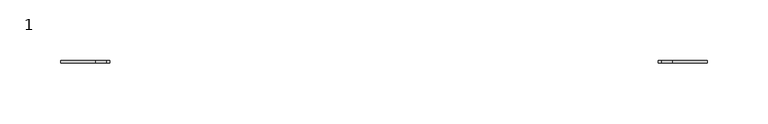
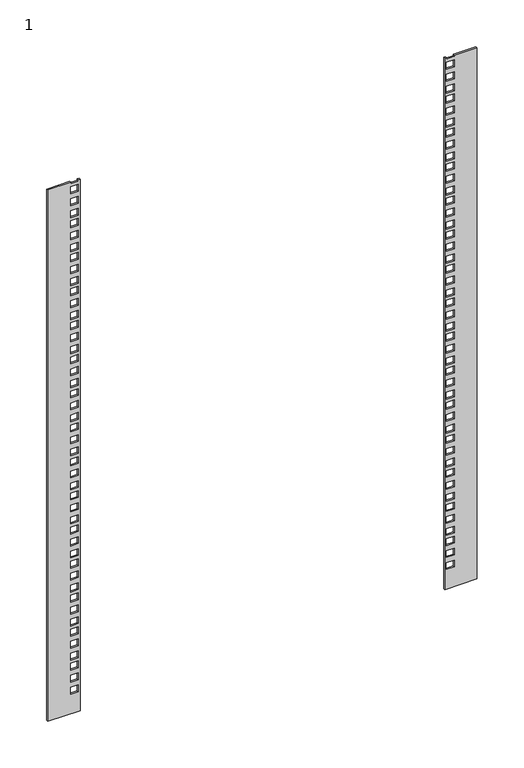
"""IFC4 building model written with IfcOpenShell, lengths in millimetres: proxy geometry, 1 : 15U 600мм стеклянная дверь."""

from ifc_helpers import new_model, si_unit, frame, origin, place, context, project, spatial, polyline, outline, extrude, source, transform, mapped, element, save


def proxy_1_4c299d8e(model_context):
    return source(origin(), model_context, "Body", "SweptSolid", [
        extrude(outline(polyline([(20.4675, 225.3), (20.4675, 265.3), (714.4675, 265.3), (714.4675, 237.05), (712.8175, 237.05), (712.8175, 227.55), (714.4675, 227.55), (714.4675, 225.3), (20.4675, 225.3)]), holes=[polyline([(55.0175, 227.55), (55.0175, 237.05), (46.0675, 237.05), (46.0675, 227.55), (55.0175, 227.55)]), polyline([(70.6675, 227.55), (70.6675, 237.05), (61.7175, 237.05), (61.7175, 227.55), (70.6675, 227.55)]), polyline([(86.3175, 227.55), (86.3175, 237.05), (77.3675, 237.05), (77.3675, 227.55), (86.3175, 227.55)]), polyline([(99.4675, 237.05), (90.5175, 237.05), (90.5175, 227.55), (99.4675, 227.55), (99.4675, 237.05)]), polyline([(115.1175, 237.05), (106.1675, 237.05), (106.1675, 227.55), (115.1175, 227.55), (115.1175, 237.05)]), polyline([(130.7675, 237.05), (121.8175, 237.05), (121.8175, 227.55), (130.7675, 227.55), (130.7675, 237.05)]), polyline([(143.9175, 237.05), (134.9675, 237.05), (134.9675, 227.55), (143.9175, 227.55), (143.9175, 237.05)]), polyline([(159.5675, 237.05), (150.6175, 237.05), (150.6175, 227.55), (159.5675, 227.55), (159.5675, 237.05)]), polyline([(175.2175, 237.05), (166.2675, 237.05), (166.2675, 227.55), (175.2175, 227.55), (175.2175, 237.05)]), polyline([(188.3675, 237.05), (179.4175, 237.05), (179.4175, 227.55), (188.3675, 227.55), (188.3675, 237.05)]), polyline([(204.0175, 237.05), (195.0675, 237.05), (195.0675, 227.55), (204.0175, 227.55), (204.0175, 237.05)]), polyline([(219.6675, 237.05), (210.7175, 237.05), (210.7175, 227.55), (219.6675, 227.55), (219.6675, 237.05)]), polyline([(232.8175, 237.05), (223.8675, 237.05), (223.8675, 227.55), (232.8175, 227.55), (232.8175, 237.05)]), polyline([(248.4675, 237.05), (239.5175, 237.05), (239.5175, 227.55), (248.4675, 227.55), (248.4675, 237.05)]), polyline([(264.1175, 237.05), (255.1675, 237.05), (255.1675, 227.55), (264.1175, 227.55), (264.1175, 237.05)]), polyline([(277.2675, 237.05), (268.3175, 237.05), (268.3175, 227.55), (277.2675, 227.55), (277.2675, 237.05)]), polyline([(292.9175, 237.05), (283.9675, 237.05), (283.9675, 227.55), (292.9175, 227.55), (292.9175, 237.05)]), polyline([(308.5675, 237.05), (299.6175, 237.05), (299.6175, 227.55), (308.5675, 227.55), (308.5675, 237.05)]), polyline([(321.7175, 237.05), (312.7675, 237.05), (312.7675, 227.55), (321.7175, 227.55), (321.7175, 237.05)]), polyline([(337.3675, 237.05), (328.4175, 237.05), (328.4175, 227.55), (337.3675, 227.55), (337.3675, 237.05)]), polyline([(353.0175, 237.05), (344.0675, 237.05), (344.0675, 227.55), (353.0175, 227.55), (353.0175, 237.05)]), polyline([(366.1675, 237.05), (357.2175, 237.05), (357.2175, 227.55), (366.1675, 227.55), (366.1675, 237.05)]), polyline([(381.8175, 237.05), (372.8675, 237.05), (372.8675, 227.55), (381.8175, 227.55), (381.8175, 237.05)]), polyline([(397.4675, 237.05), (388.5175, 237.05), (388.5175, 227.55), (397.4675, 227.55), (397.4675, 237.05)]), polyline([(410.6175, 237.05), (401.6675, 237.05), (401.6675, 227.55), (410.6175, 227.55), (410.6175, 237.05)]), polyline([(426.2675, 237.05), (417.3175, 237.05), (417.3175, 227.55), (426.2675, 227.55), (426.2675, 237.05)]), polyline([(441.9175, 237.05), (432.9675, 237.05), (432.9675, 227.55), (441.9175, 227.55), (441.9175, 237.05)]), polyline([(455.0675, 237.05), (446.1175, 237.05), (446.1175, 227.55), (455.0675, 227.55), (455.0675, 237.05)]), polyline([(470.7175, 237.05), (461.7675, 237.05), (461.7675, 227.55), (470.7175, 227.55), (470.7175, 237.05)]), polyline([(486.3675, 237.05), (477.4175, 237.05), (477.4175, 227.55), (486.3675, 227.55), (486.3675, 237.05)]), polyline([(499.5175, 237.05), (490.5675, 237.05), (490.5675, 227.55), (499.5175, 227.55), (499.5175, 237.05)]), polyline([(515.1675, 237.05), (506.2175, 237.05), (506.2175, 227.55), (515.1675, 227.55), (515.1675, 237.05)]), polyline([(530.8175, 237.05), (521.8675, 237.05), (521.8675, 227.55), (530.8175, 227.55), (530.8175, 237.05)]), polyline([(543.9675, 237.05), (535.0175, 237.05), (535.0175, 227.55), (543.9675, 227.55), (543.9675, 237.05)]), polyline([(559.6175, 237.05), (550.6675, 237.05), (550.6675, 227.55), (559.6175, 227.55), (559.6175, 237.05)]), polyline([(575.2675, 237.05), (566.3175, 237.05), (566.3175, 227.55), (575.2675, 227.55), (575.2675, 237.05)]), polyline([(588.4175, 237.05), (579.4675, 237.05), (579.4675, 227.55), (588.4175, 227.55), (588.4175, 237.05)]), polyline([(604.0675, 237.05), (595.1175, 237.05), (595.1175, 227.55), (604.0675, 227.55), (604.0675, 237.05)]), polyline([(619.7175, 237.05), (610.7675, 237.05), (610.7675, 227.55), (619.7175, 227.55), (619.7175, 237.05)]), polyline([(632.8675, 237.05), (623.9175, 237.05), (623.9175, 227.55), (632.8675, 227.55), (632.8675, 237.05)]), polyline([(648.5175, 237.05), (639.5675, 237.05), (639.5675, 227.55), (648.5175, 227.55), (648.5175, 237.05)]), polyline([(664.1675, 237.05), (655.2175, 237.05), (655.2175, 227.55), (664.1675, 227.55), (664.1675, 237.05)]), polyline([(677.3175, 237.05), (668.3675, 237.05), (668.3675, 227.55), (677.3175, 227.55), (677.3175, 237.05)]), polyline([(692.9675, 237.05), (684.0175, 237.05), (684.0175, 227.55), (692.9675, 227.55), (692.9675, 237.05)]), polyline([(708.6175, 237.05), (699.6675, 237.05), (699.6675, 227.55), (708.6175, 227.55), (708.6175, 237.05)])]), frame((0.0, -254.6777479, 0.0), z_axis=(0.0, 1.0, 0.0), x_axis=(0.0, 0.0, 1.0)), (0.0, 0.0, 1.0), 2.0),
        extrude(outline(polyline([(20.4675, -265.7), (20.4675, -225.7), (714.4675, -225.7), (714.4675, -227.95), (712.8175, -227.95), (712.8175, -237.45), (714.4675, -237.45), (714.4675, -265.7), (20.4675, -265.7)]), holes=[polyline([(55.0175, -237.45), (55.0175, -227.95), (46.0675, -227.95), (46.0675, -237.45), (55.0175, -237.45)]), polyline([(70.6675, -237.45), (70.6675, -227.95), (61.7175, -227.95), (61.7175, -237.45), (70.6675, -237.45)]), polyline([(86.3175, -237.45), (86.3175, -227.95), (77.3675, -227.95), (77.3675, -237.45), (86.3175, -237.45)]), polyline([(90.5175, -237.45), (99.4675, -237.45), (99.4675, -227.95), (90.5175, -227.95), (90.5175, -237.45)]), polyline([(106.1675, -237.45), (115.1175, -237.45), (115.1175, -227.95), (106.1675, -227.95), (106.1675, -237.45)]), polyline([(121.8175, -237.45), (130.7675, -237.45), (130.7675, -227.95), (121.8175, -227.95), (121.8175, -237.45)]), polyline([(134.9675, -237.45), (143.9175, -237.45), (143.9175, -227.95), (134.9675, -227.95), (134.9675, -237.45)]), polyline([(150.6175, -237.45), (159.5675, -237.45), (159.5675, -227.95), (150.6175, -227.95), (150.6175, -237.45)]), polyline([(166.2675, -237.45), (175.2175, -237.45), (175.2175, -227.95), (166.2675, -227.95), (166.2675, -237.45)]), polyline([(179.4175, -237.45), (188.3675, -237.45), (188.3675, -227.95), (179.4175, -227.95), (179.4175, -237.45)]), polyline([(195.0675, -237.45), (204.0175, -237.45), (204.0175, -227.95), (195.0675, -227.95), (195.0675, -237.45)]), polyline([(210.7175, -237.45), (219.6675, -237.45), (219.6675, -227.95), (210.7175, -227.95), (210.7175, -237.45)]), polyline([(223.8675, -237.45), (232.8175, -237.45), (232.8175, -227.95), (223.8675, -227.95), (223.8675, -237.45)]), polyline([(239.5175, -237.45), (248.4675, -237.45), (248.4675, -227.95), (239.5175, -227.95), (239.5175, -237.45)]), polyline([(255.1675, -237.45), (264.1175, -237.45), (264.1175, -227.95), (255.1675, -227.95), (255.1675, -237.45)]), polyline([(268.3175, -237.45), (277.2675, -237.45), (277.2675, -227.95), (268.3175, -227.95), (268.3175, -237.45)]), polyline([(283.9675, -237.45), (292.9175, -237.45), (292.9175, -227.95), (283.9675, -227.95), (283.9675, -237.45)]), polyline([(299.6175, -237.45), (308.5675, -237.45), (308.5675, -227.95), (299.6175, -227.95), (299.6175, -237.45)]), polyline([(312.7675, -237.45), (321.7175, -237.45), (321.7175, -227.95), (312.7675, -227.95), (312.7675, -237.45)]), polyline([(328.4175, -237.45), (337.3675, -237.45), (337.3675, -227.95), (328.4175, -227.95), (328.4175, -237.45)]), polyline([(344.0675, -237.45), (353.0175, -237.45), (353.0175, -227.95), (344.0675, -227.95), (344.0675, -237.45)]), polyline([(357.2175, -237.45), (366.1675, -237.45), (366.1675, -227.95), (357.2175, -227.95), (357.2175, -237.45)]), polyline([(372.8675, -237.45), (381.8175, -237.45), (381.8175, -227.95), (372.8675, -227.95), (372.8675, -237.45)]), polyline([(388.5175, -237.45), (397.4675, -237.45), (397.4675, -227.95), (388.5175, -227.95), (388.5175, -237.45)]), polyline([(401.6675, -237.45), (410.6175, -237.45), (410.6175, -227.95), (401.6675, -227.95), (401.6675, -237.45)]), polyline([(417.3175, -237.45), (426.2675, -237.45), (426.2675, -227.95), (417.3175, -227.95), (417.3175, -237.45)]), polyline([(432.9675, -237.45), (441.9175, -237.45), (441.9175, -227.95), (432.9675, -227.95), (432.9675, -237.45)]), polyline([(446.1175, -237.45), (455.0675, -237.45), (455.0675, -227.95), (446.1175, -227.95), (446.1175, -237.45)]), polyline([(461.7675, -237.45), (470.7175, -237.45), (470.7175, -227.95), (461.7675, -227.95), (461.7675, -237.45)]), polyline([(477.4175, -237.45), (486.3675, -237.45), (486.3675, -227.95), (477.4175, -227.95), (477.4175, -237.45)]), polyline([(490.5675, -237.45), (499.5175, -237.45), (499.5175, -227.95), (490.5675, -227.95), (490.5675, -237.45)]), polyline([(506.2175, -237.45), (515.1675, -237.45), (515.1675, -227.95), (506.2175, -227.95), (506.2175, -237.45)]), polyline([(521.8675, -237.45), (530.8175, -237.45), (530.8175, -227.95), (521.8675, -227.95), (521.8675, -237.45)]), polyline([(535.0175, -237.45), (543.9675, -237.45), (543.9675, -227.95), (535.0175, -227.95), (535.0175, -237.45)]), polyline([(550.6675, -237.45), (559.6175, -237.45), (559.6175, -227.95), (550.6675, -227.95), (550.6675, -237.45)]), polyline([(566.3175, -237.45), (575.2675, -237.45), (575.2675, -227.95), (566.3175, -227.95), (566.3175, -237.45)]), polyline([(579.4675, -237.45), (588.4175, -237.45), (588.4175, -227.95), (579.4675, -227.95), (579.4675, -237.45)]), polyline([(595.1175, -237.45), (604.0675, -237.45), (604.0675, -227.95), (595.1175, -227.95), (595.1175, -237.45)]), polyline([(610.7675, -237.45), (619.7175, -237.45), (619.7175, -227.95), (610.7675, -227.95), (610.7675, -237.45)]), polyline([(623.9175, -237.45), (632.8675, -237.45), (632.8675, -227.95), (623.9175, -227.95), (623.9175, -237.45)]), polyline([(639.5675, -237.45), (648.5175, -237.45), (648.5175, -227.95), (639.5675, -227.95), (639.5675, -237.45)]), polyline([(655.2175, -237.45), (664.1675, -237.45), (664.1675, -227.95), (655.2175, -227.95), (655.2175, -237.45)]), polyline([(668.3675, -237.45), (677.3175, -237.45), (677.3175, -227.95), (668.3675, -227.95), (668.3675, -237.45)]), polyline([(684.0175, -237.45), (692.9675, -237.45), (692.9675, -227.95), (684.0175, -227.95), (684.0175, -237.45)]), polyline([(699.6675, -237.45), (708.6175, -237.45), (708.6175, -227.95), (699.6675, -227.95), (699.6675, -237.45)])]), frame((0.0, -254.6777479, 0.0), z_axis=(0.0, 1.0, 0.0), x_axis=(0.0, 0.0, 1.0)), (0.0, 0.0, 1.0), 2.0),
    ])


if __name__ == "__main__":
    model = new_model("IFC4")
    model_context = context("Model", 3, world=origin())
    ifc_project = project(units=[si_unit("LENGTHUNIT", "METRE", prefix="MILLI")], contexts=[model_context])
    site = spatial("IfcSite", under=ifc_project)
    building = spatial("IfcBuilding", under=site)
    placement = place(None, origin())
    proxy_1_shape = proxy_1_4c299d8e(model_context)
    element("IfcBuildingElementProxy", 1, Name="1 : 15U 600мм стеклянная дверь", ObjectType="1 : 15U 600мм стеклянная дверь", at=placement, inside=building, context=model_context, shape_type="MappedRepresentation", body=[
        mapped(proxy_1_shape, transform((0.0, 0.0, 0.0), x_axis=(1.0, 0.0, 0.0), y_axis=(0.0, 1.0, 0.0), z_axis=(0.0, 0.0, 1.0))),
    ])
    save(model, "model.ifc")
